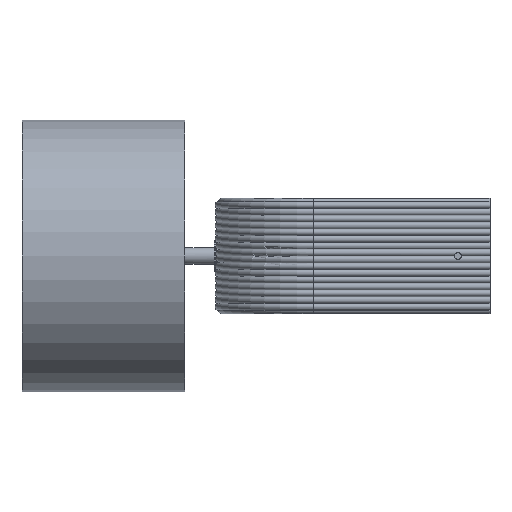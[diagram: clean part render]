
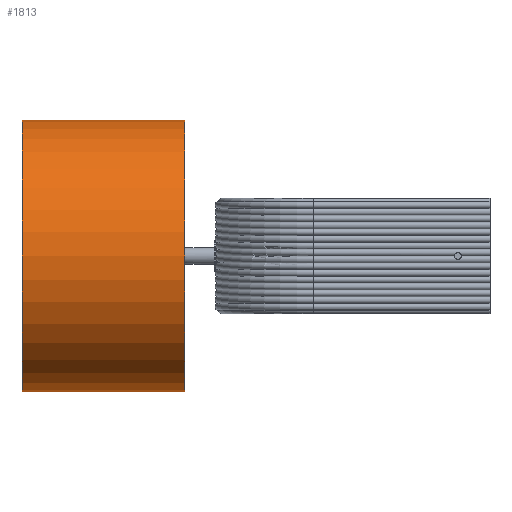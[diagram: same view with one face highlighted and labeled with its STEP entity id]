
A CAD part, left-side view. The second image highlights one B-rep face of the part: STEP entity #1813.
In plain terms, the highlighted cylindrical face has radius 200 mm (diameter 400 mm), a partial arc.
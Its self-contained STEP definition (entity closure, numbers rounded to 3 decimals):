
#51 = FACE_OUTER_BOUND ( 'NONE', #4782, .T. ) ;
#91 = CARTESIAN_POINT ( 'NONE',  ( 0., 450., 80. ) ) ;
#165 = DIRECTION ( 'NONE',  ( 0., -1., 0. ) ) ;
#292 = CARTESIAN_POINT ( 'NONE',  ( 0., 690., 280. ) ) ;
#294 = CIRCLE ( 'NONE', #1786, 200. ) ;
#857 = CARTESIAN_POINT ( 'NONE',  ( 0., 690., 80. ) ) ;
#902 = DIRECTION ( 'NONE',  ( 0., 0., 1. ) ) ;
#1222 = VERTEX_POINT ( 'NONE', #3699 ) ;
#1229 = VERTEX_POINT ( 'NONE', #2812 ) ;
#1382 = EDGE_CURVE ( 'NONE', #3192, #1229, #3174, .T. ) ;
#1566 = ORIENTED_EDGE ( 'NONE', *, *, #3013, .F. ) ;
#1715 = CARTESIAN_POINT ( 'NONE',  ( 0., 690., -120. ) ) ;
#1786 = AXIS2_PLACEMENT_3D ( 'NONE', #91, #3609, #2783 ) ;
#1813 = ADVANCED_FACE ( 'NONE', ( #51 ), #1915, .T. ) ;
#1844 = DIRECTION ( 'NONE',  ( 0., 1., 0. ) ) ;
#1899 = DIRECTION ( 'NONE',  ( 0., 0., -1. ) ) ;
#1915 = CYLINDRICAL_SURFACE ( 'NONE', #4564, 200. ) ;
#1925 = VERTEX_POINT ( 'NONE', #2892 ) ;
#1951 = CARTESIAN_POINT ( 'NONE',  ( 0., 690., 80. ) ) ;
#2208 = LINE ( 'NONE', #292, #2700 ) ;
#2284 = ORIENTED_EDGE ( 'NONE', *, *, #5336, .T. ) ;
#2415 = ORIENTED_EDGE ( 'NONE', *, *, #4611, .F. ) ;
#2443 = CARTESIAN_POINT ( 'NONE',  ( 0., 690., -120. ) ) ;
#2700 = VECTOR ( 'NONE', #3848, 1000. ) ;
#2783 = DIRECTION ( 'NONE',  ( 0., 0., 1. ) ) ;
#2812 = CARTESIAN_POINT ( 'NONE',  ( 0., 450., -120. ) ) ;
#2892 = CARTESIAN_POINT ( 'NONE',  ( 0., 450., 280. ) ) ;
#3013 = EDGE_CURVE ( 'NONE', #3192, #1222, #3680, .T. ) ;
#3174 = LINE ( 'NONE', #1715, #5494 ) ;
#3192 = VERTEX_POINT ( 'NONE', #2443 ) ;
#3609 = DIRECTION ( 'NONE',  ( 0., 1., 0. ) ) ;
#3680 = CIRCLE ( 'NONE', #3979, 200. ) ;
#3699 = CARTESIAN_POINT ( 'NONE',  ( 0., 690., 280. ) ) ;
#3848 = DIRECTION ( 'NONE',  ( 0., -1., 0. ) ) ;
#3979 = AXIS2_PLACEMENT_3D ( 'NONE', #857, #1844, #902 ) ;
#4564 = AXIS2_PLACEMENT_3D ( 'NONE', #1951, #165, #1899 ) ;
#4611 = EDGE_CURVE ( 'NONE', #1222, #1925, #2208, .T. ) ;
#4655 = ORIENTED_EDGE ( 'NONE', *, *, #1382, .T. ) ;
#4782 = EDGE_LOOP ( 'NONE', ( #2415, #1566, #4655, #2284 ) ) ;
#4832 = DIRECTION ( 'NONE',  ( 0., -1., 0. ) ) ;
#5336 = EDGE_CURVE ( 'NONE', #1229, #1925, #294, .T. ) ;
#5494 = VECTOR ( 'NONE', #4832, 1000. ) ;
